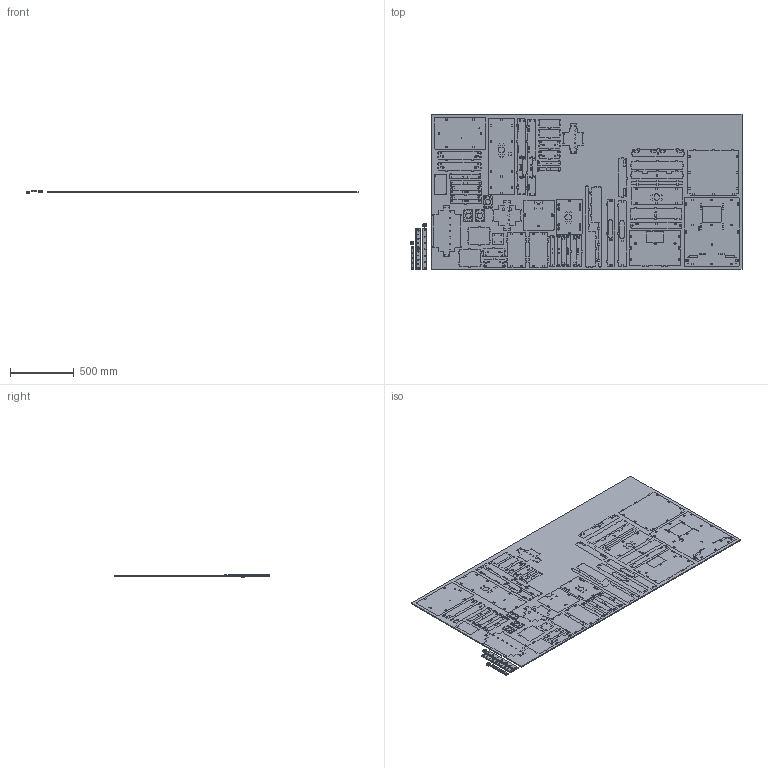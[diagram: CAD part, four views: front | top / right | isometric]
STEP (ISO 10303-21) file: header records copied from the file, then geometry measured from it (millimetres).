
FILE_DESCRIPTION(/* description */ (''),/* implementation_level */ '2;1');
FILE_NAME(/* name */ 'C:/Users/jakob/Documents/GitHub/fabricatable-machines/hedy-pcb-cnc/Cut_Sheet_STEP.step',/* time_stamp */ '2018-10-01T13:25:28+02:00',/* author */ (''),/* organization */ (''),/* preprocessor_version */ 'ST-DEVELOPER v17.2',/* originating_system */ 'Autodesk Translation Framework v7.6.0.251',/* authorisation */ '');
FILE_SCHEMA (('AUTOMOTIVE_DESIGN { 1 0 10303 214 3 1 1 }'));
Products named in the file (52): Cut_Sheet; stock; layout_z; plate (2); top (3); single_wheel_holder (2) (1); single_wheel_holder (1) (1); side (1) (1); lid (1); Spindle_platform; rail (z); rail_stand (1); z_skudd; Chassi_layout; base; rail; rail_stand; rail_stand(small); side_wall_x_base; backwall; top (2); ridge_long; Inner_floor_wall; Inner_floor_wall (back); MIDRIB; main; Inner_floor_wall (mid); X_layout; plate; Basey; side; single_wheel_holder; top (no hole); top; Y-layout; plate (1); single_wheel_holder (1); single_wheel_holder (2); y_front; spoilboard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
Assembly tree (65 placements, depth 4):
  Cut_Sheet
    stock
    layout_z
      plate (2)
      top (3)  x2
      side (1) (1)  x2
      single_wheel_holder (2) (1)
      single_wheel_holder (1) (1)
      lid (1)
      Spindle_platform
      rail (z)
      rail_stand (1)  x2
      z_skudd  x2
    Chassi_layout
      base
      rail
      rail_stand
      rail_stand(small)
      side_wall_x_base  x2
      backwall
      top (2)
      ridge_long  x2
      Inner_floor_wall
      Inner_floor_wall (back)
      MIDRIB
      main
      Inner_floor_wall (mid)
    X_layout
      plate
      side  x2
      single_wheel_holder  x2
      top  x2
      Basey
      top (no hole)  x2
    Y-layout
      plate (1)
      top (1)  x2
      side (1)  x2
      single_wheel_holder (1)
      single_wheel_holder (2)
      y_front
      spoilboard
    Drive_system
      racks
        x-y_table_long_rack v6
        short_rack
        short_rack_1
      vachro rack v2
      40 pinion dual gap v2
      large pinion 60 circ v2
    motor_plates
      Motor_plate_y v3_nema23  x3
Bounding box: 2609.61 x 1223.34 x 20.6 mm (x, y, z)
Volume: 36910055.1 mm3; surface area: 9806116.2 mm2
Topology: 58 solids, 58 shells, 4649 faces, 13534 edges, 9057 vertices
Faces by surface type: plane 2118, cylinder 1794, bspline 737
Full cylindrical faces by diameter (mm): 4 x12, 5.1 x3, 5.5 x44, 6 x64, 6.1 x2, 6.5 x4, 9 x18, 10 x6, 11 x6, 20 x2, 30 x1, 30.399 x1, 41 x3
Entity records: 143946 total; most frequent: CARTESIAN_POINT 46411, ORIENTED_EDGE 21528, DIRECTION 17897, EDGE_CURVE 10764, VERTEX_POINT 7205, LINE 6091, VECTOR 6091, AXIS2_PLACEMENT_3D 5903
